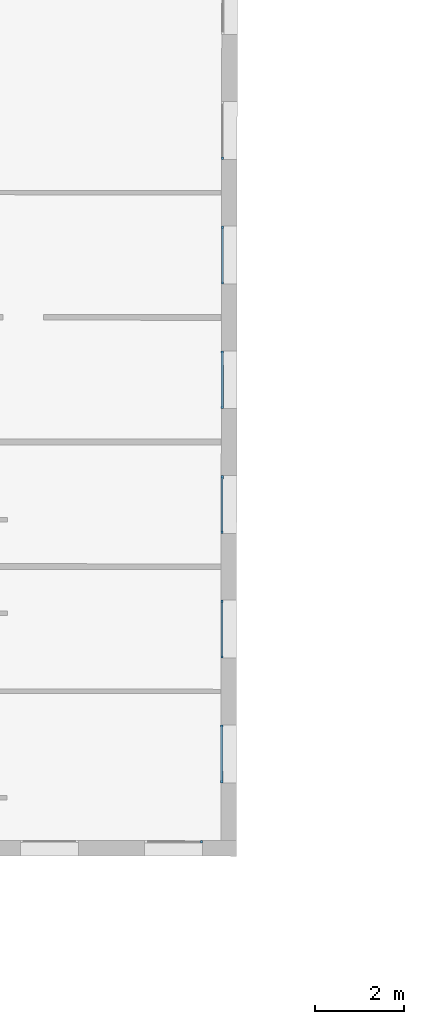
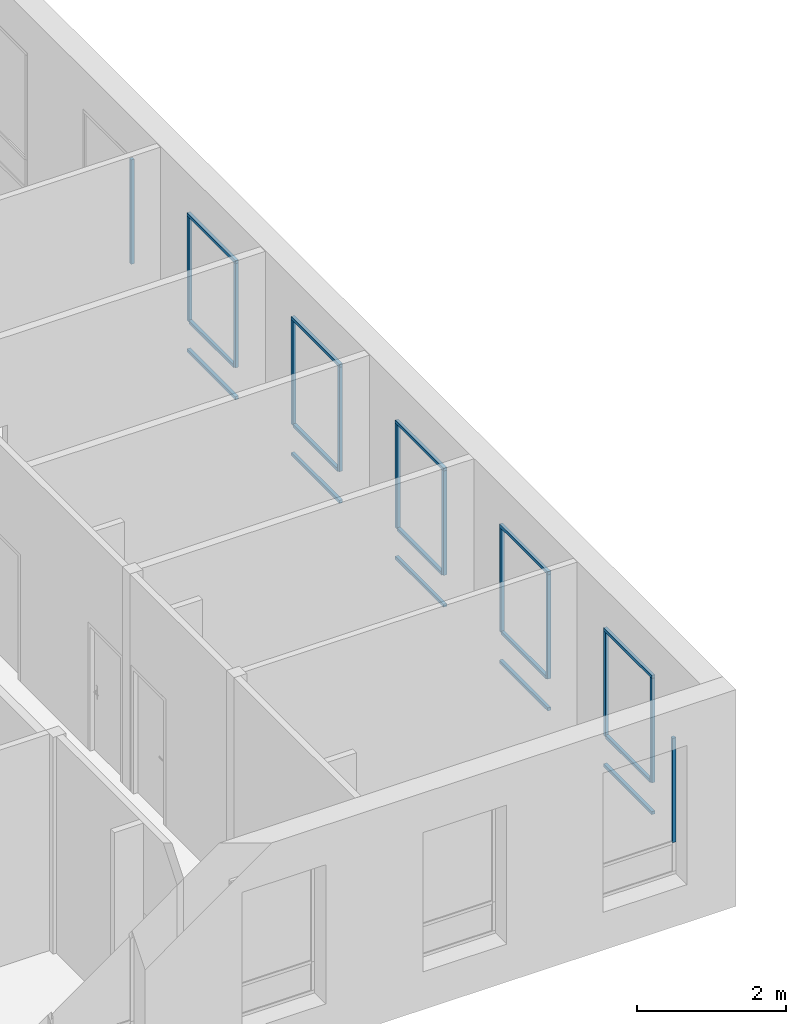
# One storey, part 15 of 101: 27 members, 7 elements without a shape of their own.
"""IFC2X3 building model written with IfcOpenShell, lengths in metres."""

import ifcopenshell
import ifcopenshell.guid

model = None  # the IFC model being written
_history = None  # IfcOwnerHistory: only IFC2X3 demands one
_inside = {}  # id of a spatial element -> (the spatial element, [elements in it])
_under = {}  # id of a project, library or spatial element -> (it, [spatial elements below it])
_declared = {}  # id of a project -> (the project, [libraries it declares])
_typed = {}  # id of a type object -> (the type object, [elements of that type])
_made_of = {}  # id of a material, layer set ... -> (it, [elements and type objects made of it])


def new_model(schema):
    """Start an empty IFC model of exactly this schema.

    Asked for "IFC4X3", IfcOpenShell would pick the latest addendum, in which some entities
    have other attributes; the version numbers below select the first issue.
    IFC2X3 requires an IfcOwnerHistory on every rooted entity: one is made here for all.
    """
    global model, _history
    if schema == "IFC4X3":
        model = ifcopenshell.file(schema_version=(4, 3, 0, 0))
    else:
        model = ifcopenshell.file(schema=schema)
    _inside.clear()
    _under.clear()
    _declared.clear()
    _typed.clear()
    _made_of.clear()
    _history = None
    if model.schema == "IFC2X3":
        org = make("IfcOrganization", Name="unknown")
        user = make(
            "IfcPersonAndOrganization",
            ThePerson=make("IfcPerson", FamilyName="unknown"),
            TheOrganization=org,
        )
        app = make(
            "IfcApplication",
            ApplicationDeveloper=org,
            Version="unknown",
            ApplicationFullName="unknown",
            ApplicationIdentifier="unknown",
        )
        _history = make(
            "IfcOwnerHistory",
            OwningUser=user,
            OwningApplication=app,
            ChangeAction="ADDED",
            CreationDate=0,
        )
    return model


def make(cls, **values):
    """One entity of the class cls with the attributes given. An attribute that is None is left unset."""
    return model.create_entity(
        cls, **{name: value for name, value in values.items() if value is not None}
    )


def entity(cls, *values):
    """Any entity or typed value of the class cls, its attributes in the order of the schema. None: left unset."""
    e = model.create_entity(cls)
    for i, value in enumerate(values):
        if value is not None:
            e[i] = value
    return e


def rooted(cls, **values):
    """An entity with a GlobalId (a new one), such as an element, a storey or a relation."""
    return make(cls, GlobalId=ifcopenshell.guid.new(), OwnerHistory=_history, **values)


def si_unit(unit_type, name, prefix=None):
    """IfcSIUnit, for example si_unit("LENGTHUNIT", "METRE", prefix="MILLI")."""
    return make("IfcSIUnit", UnitType=unit_type, Prefix=prefix, Name=name)


def converted_unit(unit_type, name, factor, base, dimensions=None, offset=None):
    """IfcConversionBasedUnit, such as the inch: factor (a typed value) times the base unit."""
    return make(
        "IfcConversionBasedUnit"
        if offset is None
        else "IfcConversionBasedUnitWithOffset",
        ConversionOffset=offset,
        Dimensions=None
        if dimensions is None
        else entity("IfcDimensionalExponents", *dimensions),
        UnitType=unit_type,
        Name=name,
        ConversionFactor=make(
            "IfcMeasureWithUnit", ValueComponent=factor, UnitComponent=base
        ),
    )


def derived_unit(unit_type, elements):
    """IfcDerivedUnit: a product of units, each with its exponent."""
    return make(
        "IfcDerivedUnit",
        Elements=[
            make("IfcDerivedUnitElement", Unit=unit, Exponent=power)
            for unit, power in elements
        ],
        UnitType=unit_type,
    )


def assignment(units):
    """IfcUnitAssignment: the units of a project."""
    return None if units is None else make("IfcUnitAssignment", Units=units)


def point(xyz):
    """IfcCartesianPoint."""
    return None if xyz is None else make("IfcCartesianPoint", Coordinates=xyz)


def direction(xyz):
    """IfcDirection."""
    return None if xyz is None else make("IfcDirection", DirectionRatios=xyz)


def frame(location, z_axis=None, x_axis=None):
    """IfcAxis2Placement3D, a coordinate frame: its origin and axes. An axis left out is left unset."""
    return make(
        "IfcAxis2Placement3D",
        Location=point(location),
        Axis=direction(z_axis),
        RefDirection=direction(x_axis),
    )


def frame_2d(location, x_axis=None):
    """IfcAxis2Placement2D, a coordinate frame in the plane: its origin and x axis."""
    return make(
        "IfcAxis2Placement2D", Location=point(location), RefDirection=direction(x_axis)
    )


def origin():
    """The frame at (0, 0, 0) with its axes left unset."""
    return frame((0.0, 0.0, 0.0))


def origin_2d_with_axis():
    """The frame at (0, 0) in the plane with the x axis (1, 0) written out."""
    return frame_2d((0.0, 0.0), x_axis=(1.0, 0.0))


def place(relative_to, where):
    """IfcLocalPlacement: puts the frame where relative to a parent placement (None: the world)."""
    return make(
        "IfcLocalPlacement", PlacementRelTo=relative_to, RelativePlacement=where
    )


def context(
    kind, dimensions, precision=None, world=None, true_north=None, identifier=None
):
    """IfcGeometricRepresentationContext, for example the 3D "Model" context."""
    return make(
        "IfcGeometricRepresentationContext",
        ContextIdentifier=identifier,
        ContextType=kind,
        CoordinateSpaceDimension=dimensions,
        Precision=precision,
        WorldCoordinateSystem=world,
        TrueNorth=true_north,
    )


def subcontext(parent, identifier, kind, view, scale=None):
    """IfcGeometricRepresentationSubContext, for example "Body" below "Model"."""
    return make(
        "IfcGeometricRepresentationSubContext",
        ContextIdentifier=identifier,
        ContextType=kind,
        ParentContext=parent,
        TargetScale=scale,
        TargetView=view,
    )


def project(units=None, contexts=None):
    """IfcProject with its units and contexts."""
    return rooted(
        "IfcProject",
        Name="project",
        RepresentationContexts=contexts,
        UnitsInContext=assignment(units),
    )


def spatial(cls, under=None, at=None, **own):
    """A site, building, storey or space (cls), placed at a placement, below another one or the project."""
    s = rooted(cls, ObjectPlacement=at, **own)
    if under is not None:
        _under.setdefault(under.id(), (under, []))[1].append(s)
    return s


def profile(cls, at=None, kind="AREA", **sizes):
    """A parametric profile (cls). Its sizes go by their IFC names, for example OverallWidth=200.0."""
    return make(cls, ProfileType=kind, Position=at, **sizes)


def rectangle(**sizes):
    """IfcRectangleProfileDef."""
    return profile("IfcRectangleProfileDef", **sizes)


def extrude(swept, where, along, depth):
    """IfcExtrudedAreaSolid: the profile swept, set in the frame where, extruded along a direction by depth."""
    return make(
        "IfcExtrudedAreaSolid",
        SweptArea=swept,
        Position=where,
        ExtrudedDirection=direction(along),
        Depth=depth,
    )


def shape(context_of_items, identifier, shape_type, items):
    """IfcShapeRepresentation: the items that make up one representation, for example the "Body"."""
    return make(
        "IfcShapeRepresentation",
        ContextOfItems=context_of_items,
        RepresentationIdentifier=identifier,
        RepresentationType=shape_type,
        Items=items,
    )


def source(mapping_origin, context_of_items, identifier, shape_type, items):
    """IfcRepresentationMap: a shape defined once, which mapped items show again and again."""
    return make(
        "IfcRepresentationMap",
        MappingOrigin=mapping_origin,
        MappedRepresentation=shape(context_of_items, identifier, shape_type, items),
    )


def transform(
    local_origin,
    x_axis=None,
    y_axis=None,
    z_axis=None,
    scale=None,
    scale2=None,
    scale3=None,
    uniform=True,
):
    """IfcCartesianTransformationOperator3D, or its non-uniform kind. x_axis, y_axis, z_axis: its Axis1, 2, 3."""
    if uniform:
        return make(
            "IfcCartesianTransformationOperator3D",
            Axis1=direction(x_axis),
            Axis2=direction(y_axis),
            LocalOrigin=point(local_origin),
            Scale=scale,
            Axis3=direction(z_axis),
        )
    return make(
        "IfcCartesianTransformationOperator3DnonUniform",
        Axis1=direction(x_axis),
        Axis2=direction(y_axis),
        LocalOrigin=point(local_origin),
        Scale=scale,
        Axis3=direction(z_axis),
        Scale2=scale2,
        Scale3=scale3,
    )


def mapped(mapping_source, mapping_target):
    """IfcMappedItem: shows the shape of a source again, moved by a transform."""
    return make(
        "IfcMappedItem", MappingSource=mapping_source, MappingTarget=mapping_target
    )


def material(Name=None, Category=None):
    """IfcMaterial."""
    return make("IfcMaterial", Name=Name, Category=Category)


def made_of(thing, what):
    """Note that an element or type object is made of a material, layer set ...; save() writes the relation."""
    if what is not None:
        _made_of.setdefault(what.id(), (what, []))[1].append(thing)
    return thing


def type_object(cls, material=None, **own):
    """A type object (cls), such as IfcWallType, which elements share."""
    return made_of(rooted(cls, **own), material)


def type_shapes(of_type, sources):
    """Give a type object the sources (RepresentationMaps) that its elements show as mapped items."""
    of_type.RepresentationMaps = sources


def element(
    cls,
    number,
    at=None,
    inside=None,
    cuts=None,
    type_object=None,
    material=None,
    context=None,
    identifier="Body",
    shape_type=None,
    held_by="IfcProductDefinitionShape",
    body=None,
    shapes=None,
    **own,
):
    """One element of the class cls, such as IfcWall. Its Tag is "e" and its number.

    at: its placement. inside: the storey or other place that contains it. cuts: it is an
    opening in that element (IfcRelVoidsElement). A single representation is given by context,
    identifier, shape_type and body (its items); several are given by shapes. held_by: the class
    of the entity that holds the representations. save() writes the other relations.
    """
    e = rooted(cls, Tag="e%d" % number, ObjectPlacement=at, **own)
    if body is not None:
        shapes = [shape(context, identifier, shape_type, body)]
    if shapes is not None:
        e.Representation = make(held_by, Representations=shapes)
    if inside is not None:
        _inside.setdefault(inside.id(), (inside, []))[1].append(e)
    if cuts is not None:
        rooted(
            "IfcRelVoidsElement", RelatingBuildingElement=cuts, RelatedOpeningElement=e
        )
    if type_object is not None:
        _typed.setdefault(type_object.id(), (type_object, []))[1].append(e)
    return made_of(e, material)


def aggregate(whole, parts):
    """IfcRelAggregates: a whole, such as a stair, and the parts it consists of."""
    return rooted("IfcRelAggregates", RelatingObject=whole, RelatedObjects=parts)


def save(model, path):
    """Write the relations noted so far, then the file.

    IfcRelAggregates (storeys below a building ...), IfcRelContainedInSpatialStructure (elements
    in a storey), IfcRelDefinesByType, IfcRelAssociatesMaterial and IfcRelDeclares: one each for
    every whole, place, type object, material and project.
    """
    for whole, parts in _under.values():
        aggregate(whole, parts)
    for where, things in _inside.values():
        rooted(
            "IfcRelContainedInSpatialStructure",
            RelatedElements=things,
            RelatingStructure=where,
        )
    for kind, things in _typed.values():
        rooted("IfcRelDefinesByType", RelatedObjects=things, RelatingType=kind)
    for what, things in _made_of.values():
        rooted("IfcRelAssociatesMaterial", RelatedObjects=things, RelatingMaterial=what)
    for by, libraries in _declared.values():
        rooted("IfcRelDeclares", RelatingContext=by, RelatedDefinitions=libraries)
    model.write(path)


model = new_model("IFC2X3")

# Units and contexts
model_context = context("Model", 3, precision=1e-05, world=origin(), true_north=direction((6.123233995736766e-17, 1.0)))
body_context = subcontext(model_context, "Body", "Model", "MODEL_VIEW")
ifc_project = project(units=[si_unit("LENGTHUNIT", "METRE"), si_unit("AREAUNIT", "SQUARE_METRE"), converted_unit("PLANEANGLEUNIT", "DEGREE", entity("IfcPlaneAngleMeasure", 0.017453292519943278), si_unit("PLANEANGLEUNIT", "RADIAN"), dimensions=[0, 0, 0, 0, 0, 0, 0]), derived_unit("THERMALTRANSMITTANCEUNIT", [(si_unit("MASSUNIT", "GRAM", prefix="KILO"), 1), (si_unit("THERMODYNAMICTEMPERATUREUNIT", "KELVIN"), -1), (si_unit("TIMEUNIT", "SECOND"), -3)])], contexts=[model_context])

# Site, building, storey
site_placement = place(None, frame((1253.6752467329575, 2072.143113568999, 91.49999999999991), z_axis=(0.0, 0.0, 1.0), x_axis=(0.7237211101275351, 0.6900925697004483, 0.0)))
site = spatial("IfcSite", under=ifc_project, at=site_placement, Name="Surface", CompositionType="ELEMENT")
building_placement = place(site_placement, origin())
building = spatial("IfcBuilding", under=site, at=building_placement, CompositionType="ELEMENT")
storey_placement = place(building_placement, origin())
storey = spatial("IfcBuildingStorey", under=building, at=storey_placement, Name="0- Rdc", CompositionType="ELEMENT", Elevation=-5.764692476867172e-13)

# Curtain wall, member
curtain_wall_type = type_object("IfcCurtainWallType", Name="Mur-rideau:Menuiserie Ext 1F+1OB VERTIC", PredefinedType="NOTDEFINED")
curtain_wall_1_placement = place(storey_placement, origin())
curtain_wall_1 = element("IfcCurtainWall", 1, at=curtain_wall_1_placement, inside=storey, type_object=curtain_wall_type, Name="Mur-rideau:Menuiserie Ext 1F+1OB VERTIC", ObjectType="Mur-rideau:Menuiserie Ext 1F+1OB VERTIC")
ifc_material = material(Name="OMD_Aluminium Men Ext")
member_type_1 = type_object("IfcMemberType", Name="Meneau rectangulaire:50x50", PredefinedType="MULLION", material=ifc_material)
shared_shape_1 = source(origin(), body_context, "Body", "SweptSolid", [
    extrude(rectangle(XDim=0.05, YDim=0.049999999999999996, at=origin_2d_with_axis()), frame((-0.025, 0.0, -1.2996959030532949), z_axis=(0.0, 0.0, 1.0), x_axis=(-1.0, 0.0, 0.0)), (0.0, 0.0, 1.0), 1.2996959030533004),
])
type_shapes(member_type_1, [shared_shape_1])
member_1_placement = place(curtain_wall_1_placement, frame((188.84198091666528, -19.273710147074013, 2.8999999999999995), z_axis=(0.6909838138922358, 0.7228702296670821, 0.0), x_axis=(0.0, 0.0, 1.0)))
member_1 = element("IfcMember", 2, at=member_1_placement, type_object=member_type_1, material=ifc_material, Name="Meneau rectangulaire:50x50", ObjectType="Meneau rectangulaire:50x50", context=body_context, shape_type="MappedRepresentation", body=[
    mapped(shared_shape_1, transform((0.0, 0.0, 0.0), scale=1.0)),
])

curtain_wall_2_placement = place(storey_placement, origin())
curtain_wall_2 = element("IfcCurtainWall", 3, at=curtain_wall_2_placement, inside=storey, type_object=curtain_wall_type, Name="Mur-rideau:Menuiserie Ext 1F+1OB VERTIC", ObjectType="Mur-rideau:Menuiserie Ext 1F+1OB VERTIC")
member_2_placement = place(curtain_wall_2_placement, frame((186.90722623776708, -21.29774679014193, 2.8999999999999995), z_axis=(0.690983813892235, 0.7228702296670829, 0.0), x_axis=(0.0, 0.0, 1.0)))
member_2 = element("IfcMember", 4, at=member_2_placement, type_object=member_type_1, material=ifc_material, Name="Meneau rectangulaire:50x50", ObjectType="Meneau rectangulaire:50x50", context=body_context, shape_type="MappedRepresentation", body=[
    mapped(shared_shape_1, transform((0.0, 0.0, 0.0), scale=1.0)),
])

curtain_wall_3_placement = place(storey_placement, origin())
curtain_wall_3 = element("IfcCurtainWall", 5, at=curtain_wall_3_placement, inside=storey, type_object=curtain_wall_type, Name="Mur-rideau:Menuiserie Ext 1F+1OB VERTIC", ObjectType="Mur-rideau:Menuiserie Ext 1F+1OB VERTIC")
member_3_placement = place(curtain_wall_3_placement, frame((184.97247155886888, -23.321783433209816, 2.8999999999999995), z_axis=(0.690983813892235, 0.7228702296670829, 0.0), x_axis=(0.0, 0.0, 1.0)))
member_3 = element("IfcMember", 6, at=member_3_placement, type_object=member_type_1, material=ifc_material, Name="Meneau rectangulaire:50x50", ObjectType="Meneau rectangulaire:50x50", context=body_context, shape_type="MappedRepresentation", body=[
    mapped(shared_shape_1, transform((0.0, 0.0, 0.0), scale=1.0)),
])

curtain_wall_4_placement = place(storey_placement, origin())
curtain_wall_4 = element("IfcCurtainWall", 7, at=curtain_wall_4_placement, inside=storey, type_object=curtain_wall_type, Name="Mur-rideau:Menuiserie Ext 1F+1OB VERTIC", ObjectType="Mur-rideau:Menuiserie Ext 1F+1OB VERTIC")
member_4_placement = place(curtain_wall_4_placement, frame((183.03771687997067, -25.34582007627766, 2.8999999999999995), z_axis=(0.690983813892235, 0.7228702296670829, 0.0), x_axis=(0.0, 0.0, 1.0)))
member_4 = element("IfcMember", 8, at=member_4_placement, type_object=member_type_1, material=ifc_material, Name="Meneau rectangulaire:50x50", ObjectType="Meneau rectangulaire:50x50", context=body_context, shape_type="MappedRepresentation", body=[
    mapped(shared_shape_1, transform((0.0, 0.0, 0.0), scale=1.0)),
])

curtain_wall_5_placement = place(storey_placement, origin())
curtain_wall_5 = element("IfcCurtainWall", 9, at=curtain_wall_5_placement, inside=storey, type_object=curtain_wall_type, Name="Mur-rideau:Menuiserie Ext 1F+1OB VERTIC", ObjectType="Mur-rideau:Menuiserie Ext 1F+1OB VERTIC")
member_5_placement = place(curtain_wall_5_placement, frame((181.10296220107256, -27.369856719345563, 2.8999999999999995), z_axis=(0.690983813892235, 0.7228702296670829, 0.0), x_axis=(0.0, 0.0, 1.0)))
member_5 = element("IfcMember", 10, at=member_5_placement, type_object=member_type_1, material=ifc_material, Name="Meneau rectangulaire:50x50", ObjectType="Meneau rectangulaire:50x50", context=body_context, shape_type="MappedRepresentation", body=[
    mapped(shared_shape_1, transform((0.0, 0.0, 0.0), scale=1.0)),
])

# Member
member_type_2 = type_object("IfcMemberType", Name="Meneau rectangulaire:50x50", PredefinedType="MULLION", material=ifc_material)
shared_shape_2 = source(origin(), body_context, "Body", "SweptSolid", [
    extrude(rectangle(XDim=0.05, YDim=0.05, at=origin_2d_with_axis()), frame((-0.025, 0.0, -1.2996959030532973), z_axis=(0.0, 0.0, 1.0), x_axis=(-1.0, 0.0, 0.0)), (0.0, 0.0, 1.0), 1.2996959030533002),
])
type_shapes(member_type_2, [shared_shape_2])
member_6_placement = place(curtain_wall_1_placement, frame((187.9439120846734, -20.21322162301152, 0.62), z_axis=(-0.6909838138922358, -0.7228702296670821, 0.0), x_axis=(0.0, 0.0, -1.0)))
member_6 = element("IfcMember", 11, at=member_6_placement, type_object=member_type_2, material=ifc_material, Name="Meneau rectangulaire:50x50", ObjectType="Meneau rectangulaire:50x50", context=body_context, shape_type="MappedRepresentation", body=[
    mapped(shared_shape_2, transform((0.0, 0.0, 0.0), scale=1.0)),
])

member_7_placement = place(curtain_wall_2_placement, frame((186.00915740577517, -22.237258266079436, 0.62), z_axis=(-0.690983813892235, -0.7228702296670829, 0.0), x_axis=(0.0, 0.0, -1.0)))
member_7 = element("IfcMember", 12, at=member_7_placement, type_object=member_type_2, material=ifc_material, Name="Meneau rectangulaire:50x50", ObjectType="Meneau rectangulaire:50x50", context=body_context, shape_type="MappedRepresentation", body=[
    mapped(shared_shape_2, transform((0.0, 0.0, 0.0), scale=1.0)),
])

member_8_placement = place(curtain_wall_3_placement, frame((184.074402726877, -24.261294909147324, 0.62), z_axis=(-0.690983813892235, -0.7228702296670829, 0.0), x_axis=(0.0, 0.0, -1.0)))
member_8 = element("IfcMember", 13, at=member_8_placement, type_object=member_type_2, material=ifc_material, Name="Meneau rectangulaire:50x50", ObjectType="Meneau rectangulaire:50x50", context=body_context, shape_type="MappedRepresentation", body=[
    mapped(shared_shape_2, transform((0.0, 0.0, 0.0), scale=1.0)),
])

member_9_placement = place(curtain_wall_4_placement, frame((182.13964804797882, -26.285331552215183, 0.62), z_axis=(-0.690983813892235, -0.7228702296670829, 0.0), x_axis=(0.0, 0.0, -1.0)))
member_9 = element("IfcMember", 14, at=member_9_placement, type_object=member_type_2, material=ifc_material, Name="Meneau rectangulaire:50x50", ObjectType="Meneau rectangulaire:50x50", context=body_context, shape_type="MappedRepresentation", body=[
    mapped(shared_shape_2, transform((0.0, 0.0, 0.0), scale=1.0)),
])

member_10_placement = place(curtain_wall_5_placement, frame((180.20489336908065, -28.309368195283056, 0.62), z_axis=(-0.690983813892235, -0.7228702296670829, 0.0), x_axis=(0.0, 0.0, -1.0)))
member_10 = element("IfcMember", 15, at=member_10_placement, type_object=member_type_2, material=ifc_material, Name="Meneau rectangulaire:50x50", ObjectType="Meneau rectangulaire:50x50", context=body_context, shape_type="MappedRepresentation", body=[
    mapped(shared_shape_2, transform((0.0, 0.0, 0.0), scale=1.0)),
])

# Curtain wall, member
curtain_wall_6_placement = place(storey_placement, origin())
curtain_wall_6 = element("IfcCurtainWall", 16, at=curtain_wall_6_placement, inside=storey, type_object=curtain_wall_type, Name="Mur-rideau:Menuiserie Ext 1F+1OB VERTIC", ObjectType="Mur-rideau:Menuiserie Ext 1F+1OB VERTIC")
member_type_3 = type_object("IfcMemberType", Name="Meneau rectangulaire:50x50", PredefinedType="MULLION", material=ifc_material)
shared_shape_3 = source(origin(), body_context, "Body", "SweptSolid", [
    extrude(rectangle(XDim=0.05, YDim=0.049999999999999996, at=origin_2d_with_axis()), frame((-0.025, 0.0, -1.7099999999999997), z_axis=(0.0, 0.0, 1.0), x_axis=(-1.0, 0.0, 0.0)), (0.0, 0.0, 1.0), 1.7099999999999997),
])
type_shapes(member_type_3, [shared_shape_3])
member_11_placement = place(curtain_wall_6_placement, frame((189.87866676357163, -18.189184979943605, 2.8499999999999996), z_axis=(0.0, 0.0, 1.0), x_axis=(-0.6909838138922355, -0.7228702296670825, 0.0)))
member_11 = element("IfcMember", 17, at=member_11_placement, type_object=member_type_3, material=ifc_material, Name="Meneau rectangulaire:50x50", ObjectType="Meneau rectangulaire:50x50", context=body_context, shape_type="MappedRepresentation", body=[
    mapped(shared_shape_3, transform((0.0, 0.0, 0.0), scale=1.0)),
])
aggregate(curtain_wall_6, [member_11])

# Member
member_12_placement = place(curtain_wall_1_placement, frame((187.9439120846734, -20.213221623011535, 2.8499999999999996), z_axis=(0.0, 0.0, 1.0), x_axis=(-0.6909838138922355, -0.7228702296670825, 0.0)))
member_12 = element("IfcMember", 18, at=member_12_placement, type_object=member_type_3, material=ifc_material, Name="Meneau rectangulaire:50x50", ObjectType="Meneau rectangulaire:50x50", context=body_context, shape_type="MappedRepresentation", body=[
    mapped(shared_shape_3, transform((0.0, 0.0, 0.0), scale=1.0)),
])

member_13_placement = place(curtain_wall_2_placement, frame((186.00915740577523, -22.237258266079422, 2.8499999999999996), z_axis=(0.0, 0.0, 1.0), x_axis=(-0.6909838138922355, -0.7228702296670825, 0.0)))
member_13 = element("IfcMember", 19, at=member_13_placement, type_object=member_type_3, material=ifc_material, Name="Meneau rectangulaire:50x50", ObjectType="Meneau rectangulaire:50x50", context=body_context, shape_type="MappedRepresentation", body=[
    mapped(shared_shape_3, transform((0.0, 0.0, 0.0), scale=1.0)),
])

member_14_placement = place(curtain_wall_3_placement, frame((184.074402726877, -24.26129490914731, 2.8499999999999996), z_axis=(0.0, 0.0, 1.0), x_axis=(-0.6909838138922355, -0.7228702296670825, 0.0)))
member_14 = element("IfcMember", 20, at=member_14_placement, type_object=member_type_3, material=ifc_material, Name="Meneau rectangulaire:50x50", ObjectType="Meneau rectangulaire:50x50", context=body_context, shape_type="MappedRepresentation", body=[
    mapped(shared_shape_3, transform((0.0, 0.0, 0.0), scale=1.0)),
])

member_15_placement = place(curtain_wall_4_placement, frame((182.13964804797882, -26.28533155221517, 2.8499999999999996), z_axis=(0.0, 0.0, 1.0), x_axis=(-0.6909838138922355, -0.7228702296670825, 0.0)))
member_15 = element("IfcMember", 21, at=member_15_placement, type_object=member_type_3, material=ifc_material, Name="Meneau rectangulaire:50x50", ObjectType="Meneau rectangulaire:50x50", context=body_context, shape_type="MappedRepresentation", body=[
    mapped(shared_shape_3, transform((0.0, 0.0, 0.0), scale=1.0)),
])

member_16_placement = place(curtain_wall_5_placement, frame((180.2048933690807, -28.309368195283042, 2.8499999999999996), z_axis=(0.0, 0.0, 1.0), x_axis=(-0.6909838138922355, -0.7228702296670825, 0.0)))
member_16 = element("IfcMember", 22, at=member_16_placement, type_object=member_type_3, material=ifc_material, Name="Meneau rectangulaire:50x50", ObjectType="Meneau rectangulaire:50x50", context=body_context, shape_type="MappedRepresentation", body=[
    mapped(shared_shape_3, transform((0.0, 0.0, 0.0), scale=1.0)),
])

# Curtain wall, member
curtain_wall_7_placement = place(storey_placement, origin())
curtain_wall_7 = element("IfcCurtainWall", 23, at=curtain_wall_7_placement, inside=storey, type_object=curtain_wall_type, Name="Mur-rideau:Menuiserie Ext 1F+1OB VERTIC", ObjectType="Mur-rideau:Menuiserie Ext 1F+1OB VERTIC")
member_17_placement = place(curtain_wall_7_placement, frame((178.97891988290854, -28.970864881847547, 2.8499999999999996), z_axis=(0.0, 0.0, 1.0), x_axis=(0.7228702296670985, -0.6909838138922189, 0.0)))
member_17 = element("IfcMember", 24, at=member_17_placement, type_object=member_type_3, material=ifc_material, Name="Meneau rectangulaire:50x50", ObjectType="Meneau rectangulaire:50x50", context=body_context, shape_type="MappedRepresentation", body=[
    mapped(shared_shape_3, transform((0.0, 0.0, 0.0), scale=1.0)),
])
aggregate(curtain_wall_7, [member_17])

# Member
member_type_4 = type_object("IfcMemberType", Name="Meneau rectangulaire:50x50", PredefinedType="MULLION", material=ifc_material)
shared_shape_4 = source(origin(), body_context, "Body", "SweptSolid", [
    extrude(rectangle(XDim=0.05, YDim=0.049999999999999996, at=origin_2d_with_axis()), frame((-0.025, 0.0, -1.7099999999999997), z_axis=(0.0, 0.0, 1.0), x_axis=(-1.0, 0.0, 0.0)), (0.0, 0.0, 1.0), 1.7099999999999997),
])
type_shapes(member_type_4, [shared_shape_4])
member_18_placement = place(curtain_wall_1_placement, frame((188.84198091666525, -19.273710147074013, 1.14), z_axis=(0.0, 0.0, -1.0), x_axis=(0.6909838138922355, 0.7228702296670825, 0.0)))
member_18 = element("IfcMember", 25, at=member_18_placement, type_object=member_type_4, material=ifc_material, Name="Meneau rectangulaire:50x50", ObjectType="Meneau rectangulaire:50x50", context=body_context, shape_type="MappedRepresentation", body=[
    mapped(shared_shape_4, transform((0.0, 0.0, 0.0), scale=1.0)),
])

member_19_placement = place(curtain_wall_2_placement, frame((186.90722623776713, -21.29774679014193, 1.14), z_axis=(0.0, 0.0, -1.0), x_axis=(0.6909838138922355, 0.7228702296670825, 0.0)))
member_19 = element("IfcMember", 26, at=member_19_placement, type_object=member_type_4, material=ifc_material, Name="Meneau rectangulaire:50x50", ObjectType="Meneau rectangulaire:50x50", context=body_context, shape_type="MappedRepresentation", body=[
    mapped(shared_shape_4, transform((0.0, 0.0, 0.0), scale=1.0)),
])

member_20_placement = place(curtain_wall_3_placement, frame((184.9724715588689, -23.32178343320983, 1.14), z_axis=(0.0, 0.0, -1.0), x_axis=(0.6909838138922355, 0.7228702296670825, 0.0)))
member_20 = element("IfcMember", 27, at=member_20_placement, type_object=member_type_4, material=ifc_material, Name="Meneau rectangulaire:50x50", ObjectType="Meneau rectangulaire:50x50", context=body_context, shape_type="MappedRepresentation", body=[
    mapped(shared_shape_4, transform((0.0, 0.0, 0.0), scale=1.0)),
])

member_21_placement = place(curtain_wall_4_placement, frame((183.03771687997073, -25.34582007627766, 1.14), z_axis=(0.0, 0.0, -1.0), x_axis=(0.6909838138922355, 0.7228702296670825, 0.0)))
member_21 = element("IfcMember", 28, at=member_21_placement, type_object=member_type_4, material=ifc_material, Name="Meneau rectangulaire:50x50", ObjectType="Meneau rectangulaire:50x50", context=body_context, shape_type="MappedRepresentation", body=[
    mapped(shared_shape_4, transform((0.0, 0.0, 0.0), scale=1.0)),
])

member_22_placement = place(curtain_wall_5_placement, frame((181.1029622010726, -27.36985671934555, 1.14), z_axis=(0.0, 0.0, -1.0), x_axis=(0.6909838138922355, 0.7228702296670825, 0.0)))
member_22 = element("IfcMember", 29, at=member_22_placement, type_object=member_type_4, material=ifc_material, Name="Meneau rectangulaire:50x50", ObjectType="Meneau rectangulaire:50x50", context=body_context, shape_type="MappedRepresentation", body=[
    mapped(shared_shape_4, transform((0.0, 0.0, 0.0), scale=1.0)),
])

member_type_5 = type_object("IfcMemberType", Name="Meneau rectangulaire:50x50", PredefinedType="MULLION", material=ifc_material)
shared_shape_5 = source(origin(), body_context, "Body", "SweptSolid", [
    extrude(rectangle(XDim=0.05, YDim=0.05, at=frame_2d((0.0, -1.734723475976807e-18), x_axis=(1.0, 0.0))), frame((0.0, 0.0, -1.1996959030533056), z_axis=(0.0, 0.0, 1.0), x_axis=(-1.0, 0.0, 0.0)), (0.0, 0.0, 1.0), 1.1996959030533),
])
type_shapes(member_type_5, [shared_shape_5])
member_23_placement = place(curtain_wall_1_placement, frame((188.80743172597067, -19.309853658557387, 1.14), z_axis=(0.6909838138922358, 0.7228702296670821, 0.0), x_axis=(0.0, 0.0, 1.0)))
member_23 = element("IfcMember", 30, at=member_23_placement, type_object=member_type_5, material=ifc_material, Name="Meneau rectangulaire:50x50", ObjectType="Meneau rectangulaire:50x50", context=body_context, shape_type="MappedRepresentation", body=[
    mapped(shared_shape_5, transform((0.0, 0.0, 0.0), scale=1.0)),
])

aggregate(curtain_wall_1, [member_1, member_6, member_12, member_18, member_23])

member_24_placement = place(curtain_wall_2_placement, frame((186.87267704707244, -21.333890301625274, 1.14), z_axis=(0.690983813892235, 0.7228702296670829, 0.0), x_axis=(0.0, 0.0, 1.0)))
member_24 = element("IfcMember", 31, at=member_24_placement, type_object=member_type_5, material=ifc_material, Name="Meneau rectangulaire:50x50", ObjectType="Meneau rectangulaire:50x50", context=body_context, shape_type="MappedRepresentation", body=[
    mapped(shared_shape_5, transform((0.0, 0.0, 0.0), scale=1.0)),
])

aggregate(curtain_wall_2, [member_2, member_7, member_13, member_19, member_24])

member_25_placement = place(curtain_wall_3_placement, frame((184.93792236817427, -23.357926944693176, 1.14), z_axis=(0.690983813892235, 0.7228702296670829, 0.0), x_axis=(0.0, 0.0, 1.0)))
member_25 = element("IfcMember", 32, at=member_25_placement, type_object=member_type_5, material=ifc_material, Name="Meneau rectangulaire:50x50", ObjectType="Meneau rectangulaire:50x50", context=body_context, shape_type="MappedRepresentation", body=[
    mapped(shared_shape_5, transform((0.0, 0.0, 0.0), scale=1.0)),
])

aggregate(curtain_wall_3, [member_3, member_8, member_14, member_20, member_25])

member_26_placement = place(curtain_wall_4_placement, frame((183.0031676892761, -25.38196358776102, 1.14), z_axis=(0.690983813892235, 0.7228702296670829, 0.0), x_axis=(0.0, 0.0, 1.0)))
member_26 = element("IfcMember", 33, at=member_26_placement, type_object=member_type_5, material=ifc_material, Name="Meneau rectangulaire:50x50", ObjectType="Meneau rectangulaire:50x50", context=body_context, shape_type="MappedRepresentation", body=[
    mapped(shared_shape_5, transform((0.0, 0.0, 0.0), scale=1.0)),
])

aggregate(curtain_wall_4, [member_4, member_9, member_15, member_21, member_26])

member_27_placement = place(curtain_wall_5_placement, frame((181.06841301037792, -27.40600023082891, 1.14), z_axis=(0.690983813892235, 0.7228702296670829, 0.0), x_axis=(0.0, 0.0, 1.0)))
member_27 = element("IfcMember", 34, at=member_27_placement, type_object=member_type_5, material=ifc_material, Name="Meneau rectangulaire:50x50", ObjectType="Meneau rectangulaire:50x50", context=body_context, shape_type="MappedRepresentation", body=[
    mapped(shared_shape_5, transform((0.0, 0.0, 0.0), scale=1.0)),
])

aggregate(curtain_wall_5, [member_5, member_10, member_16, member_22, member_27])

save(model, "model.ifc")
